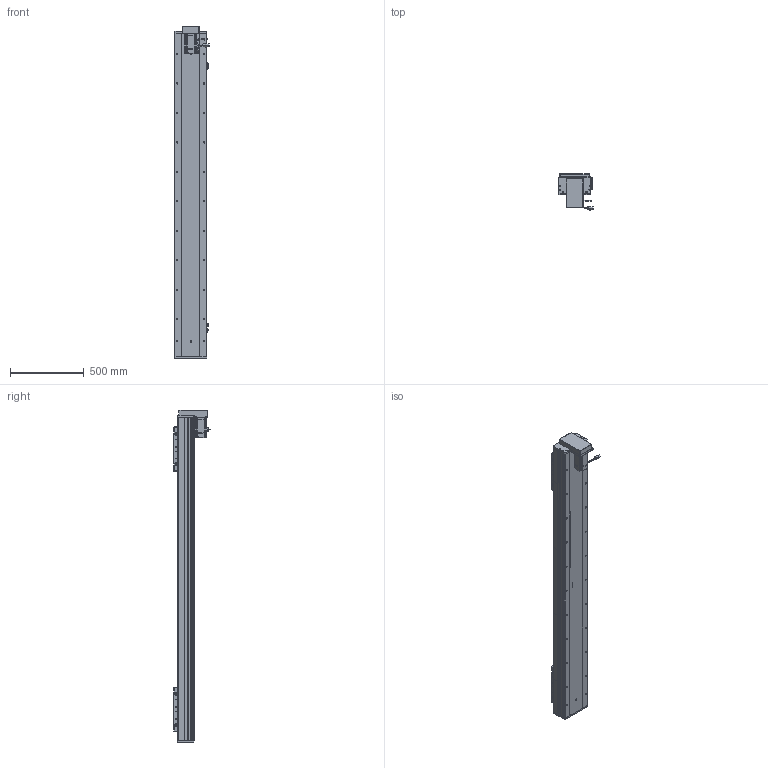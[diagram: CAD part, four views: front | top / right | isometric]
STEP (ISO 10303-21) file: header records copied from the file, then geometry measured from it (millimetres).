
FILE_DESCRIPTION (( 'STEP AP203' ), '1' );
FILE_NAME ('RY220F-L2525-800-BK-邧嶺.SLDASM_1750.step', '2022-08-06T08:08:27', ( '' ), ( '' ), 'SwSTEP 2.0', 'SolidWorks 2016', '' );
FILE_SCHEMA (( 'CONFIG_CONTROL_DESIGN' ));
Length unit declared in the file: millimetre
Products named in the file (15): RY220F綴裔啣; RY220狟殏萇儂欶; RY220F-蛌殏奻裔啣-800_1750; RY220F-L2525-800-BK-邧嶺.SLDASM_1750; RY220F-祥凄詩湍-蛌殏-800_1750; 怢湛750W_ECMA-CX0807ES; 滅袉蝶18-24; RY220F-滅鳥奻裔; RY220F蛌殏菁釱-800-邧嶺_1750; 侐源滅袉蝶; RY220F臏賑釱25-32佪裝; RY220F-詩湍揤踡輸; RY220F-672覜茼んえ; 覜茼ん672; RY220狟殏萇儂假蚾啣
Assembly tree (24 placements, depth 2):
  RY220F-L2525-800-BK-邧嶺.SLDASM_1750
    RY220F蛌殏菁釱-800-邧嶺_1750
    RY220F-蛌殏奻裔啣-800_1750  x2
    怢湛750W_ECMA-CX0807ES
    RY220F臏賑釱25-32佪裝  x2
    RY220F-滅鳥奻裔  x2
    滅袉蝶18-24  x3
    RY220F綴裔啣
    RY220F-祥凄詩湍-蛌殏-800_1750
    RY220F-詩湍揤踡輸  x2
    覜茼ん672  x3
    RY220F-672覜茼んえ  x2
    侐源滅袉蝶  x2
    RY220狟殏萇儂假蚾啣
    RY220狟殏萇儂欶
Bounding box: 237.27 x 247.24 x 2253 mm (x, y, z)
Volume: 19548567.4 mm3; surface area: 5147098.7 mm2
Topology: 25 solids, 25 shells, 2891 faces, 7838 edges, 4819 vertices
Faces by surface type: cylinder 1298, plane 1062, cone 460, bspline 45, sphere 16, torus 10
Entity records: 71957 total; most frequent: CARTESIAN_POINT 19197, ORIENTED_EDGE 10626, DIRECTION 10437, EDGE_CURVE 5313, AXIS2_PLACEMENT_3D 3726, VERTEX_POINT 3435, LINE 2985, VECTOR 2985
